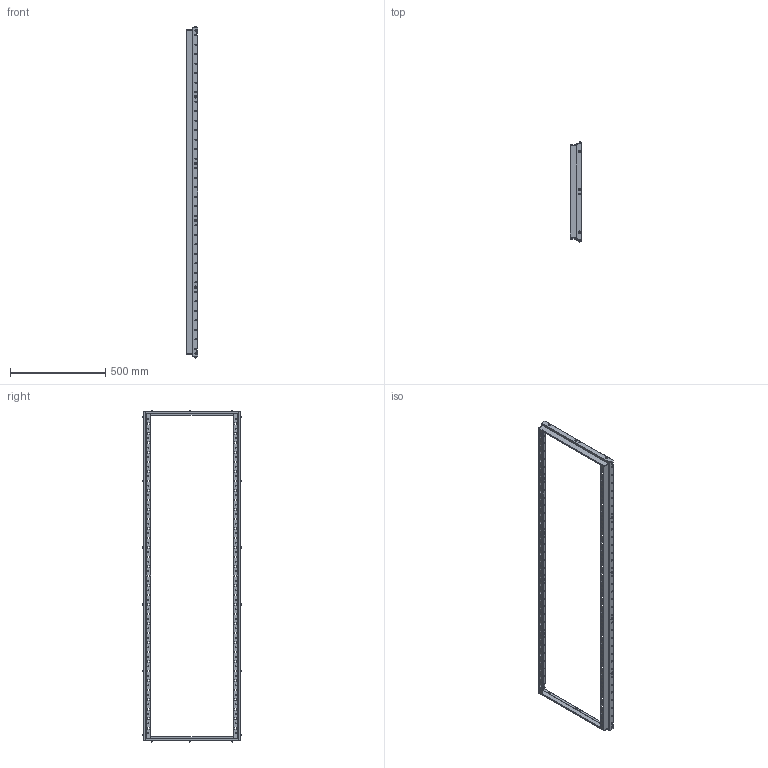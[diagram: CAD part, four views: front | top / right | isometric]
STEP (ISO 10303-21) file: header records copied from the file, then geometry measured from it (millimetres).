
FILE_DESCRIPTION (( 'STEP AP214' ), '1' );
FILE_NAME ('FO-00-UVF-180-060 Ðàìà äëÿ ïëàñòðîíîâ 1800õ600.STEP', '2025-09-25T11:39:02', ( '' ), ( '' ), 'SwSTEP 2.0', 'SolidWorks 2023', '' );
FILE_SCHEMA (( 'AUTOMOTIVE_DESIGN' ));
Length unit declared in the file: millimetre
Products named in the file (1): FO-00-UVF-180-060 Рама для пластронов 1800х600
Bounding box: 60.8 x 525 x 1746 mm (x, y, z)
Volume: 685026.4 mm3; surface area: 819557 mm2
Topology: 1 solids, 1 shells, 1660 faces, 4424 edges, 2922 vertices
Faces by surface type: plane 894, cylinder 698, sphere 28, cone 28, torus 12
Entity records: 53007 total; most frequent: CARTESIAN_POINT 9945, ORIENTED_EDGE 8848, DIRECTION 8774, EDGE_CURVE 4424, AXIS2_PLACEMENT_3D 2927, VERTEX_POINT 2922, LINE 2920, VECTOR 2920
